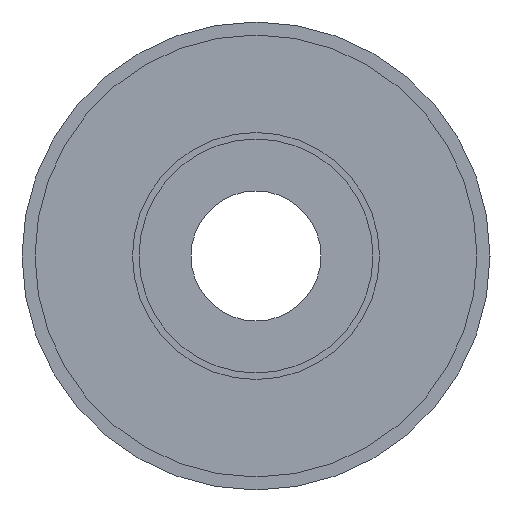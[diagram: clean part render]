
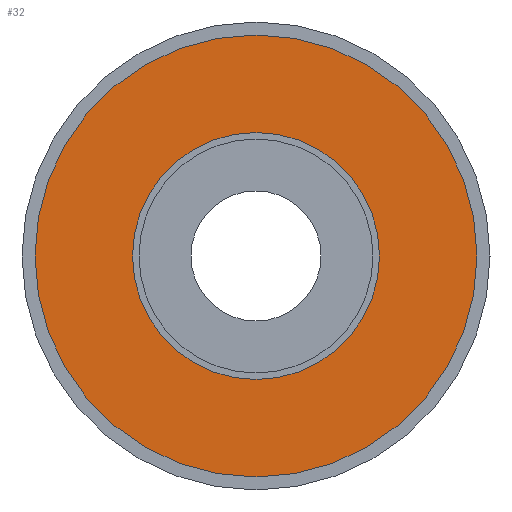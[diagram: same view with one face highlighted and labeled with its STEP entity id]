
A CAD part, left-side view. The second image highlights one B-rep face of the part: STEP entity #32.
In plain terms, the highlighted planar face has unit normal (-1, 0, 0).
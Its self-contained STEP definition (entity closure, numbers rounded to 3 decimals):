
#5 = AXIS2_PLACEMENT_3D ( 'NONE', #461, #1126, #551 ) ;
#19 = CARTESIAN_POINT ( 'NONE',  ( 0., 0., 0. ) ) ;
#32 = ADVANCED_FACE ( 'NONE', ( #327, #769 ), #1113, .F. ) ;
#71 = DIRECTION ( 'NONE',  ( 0., 0., -1. ) ) ;
#101 = VERTEX_POINT ( 'NONE', #439 ) ;
#126 = EDGE_CURVE ( 'NONE', #1013, #518, #592, .T. ) ;
#131 = DIRECTION ( 'NONE',  ( 0., 0., 1. ) ) ;
#231 = AXIS2_PLACEMENT_3D ( 'NONE', #540, #739, #71 ) ;
#244 = CARTESIAN_POINT ( 'NONE',  ( 0., 0., 0. ) ) ;
#246 = AXIS2_PLACEMENT_3D ( 'NONE', #341, #1007, #443 ) ;
#251 = EDGE_LOOP ( 'NONE', ( #915, #643 ) ) ;
#261 = EDGE_LOOP ( 'NONE', ( #396, #977 ) ) ;
#327 = FACE_BOUND ( 'NONE', #261, .T. ) ;
#341 = CARTESIAN_POINT ( 'NONE',  ( 0., 0., 0. ) ) ;
#396 = ORIENTED_EDGE ( 'NONE', *, *, #707, .F. ) ;
#398 = EDGE_CURVE ( 'NONE', #101, #831, #616, .T. ) ;
#439 = CARTESIAN_POINT ( 'NONE',  ( 0., 0., 8.5 ) ) ;
#443 = DIRECTION ( 'NONE',  ( 0., 0., 1. ) ) ;
#461 = CARTESIAN_POINT ( 'NONE',  ( 0., 0., 0. ) ) ;
#462 = EDGE_CURVE ( 'NONE', #831, #101, #495, .T. ) ;
#494 = AXIS2_PLACEMENT_3D ( 'NONE', #244, #812, #623 ) ;
#495 = CIRCLE ( 'NONE', #964, 8.5 ) ;
#518 = VERTEX_POINT ( 'NONE', #577 ) ;
#540 = CARTESIAN_POINT ( 'NONE',  ( 0., 4.75, 0. ) ) ;
#551 = DIRECTION ( 'NONE',  ( 0., 0., 1. ) ) ;
#577 = CARTESIAN_POINT ( 'NONE',  ( 0., 0., 4.75 ) ) ;
#592 = CIRCLE ( 'NONE', #494, 4.75 ) ;
#616 = CIRCLE ( 'NONE', #246, 8.5 ) ;
#623 = DIRECTION ( 'NONE',  ( 0., 0., 1. ) ) ;
#643 = ORIENTED_EDGE ( 'NONE', *, *, #462, .T. ) ;
#681 = CARTESIAN_POINT ( 'NONE',  ( 0., 0., -4.75 ) ) ;
#692 = DIRECTION ( 'NONE',  ( -1., 0., 0. ) ) ;
#707 = EDGE_CURVE ( 'NONE', #518, #1013, #1083, .T. ) ;
#739 = DIRECTION ( 'NONE',  ( 1., 0., 0. ) ) ;
#769 = FACE_OUTER_BOUND ( 'NONE', #251, .T. ) ;
#812 = DIRECTION ( 'NONE',  ( -1., 0., 0. ) ) ;
#831 = VERTEX_POINT ( 'NONE', #846 ) ;
#846 = CARTESIAN_POINT ( 'NONE',  ( 0., 0., -8.5 ) ) ;
#915 = ORIENTED_EDGE ( 'NONE', *, *, #398, .T. ) ;
#964 = AXIS2_PLACEMENT_3D ( 'NONE', #19, #692, #131 ) ;
#977 = ORIENTED_EDGE ( 'NONE', *, *, #126, .F. ) ;
#1007 = DIRECTION ( 'NONE',  ( -1., 0., 0. ) ) ;
#1013 = VERTEX_POINT ( 'NONE', #681 ) ;
#1083 = CIRCLE ( 'NONE', #5, 4.75 ) ;
#1113 = PLANE ( 'NONE',  #231 ) ;
#1126 = DIRECTION ( 'NONE',  ( -1., 0., 0. ) ) ;
